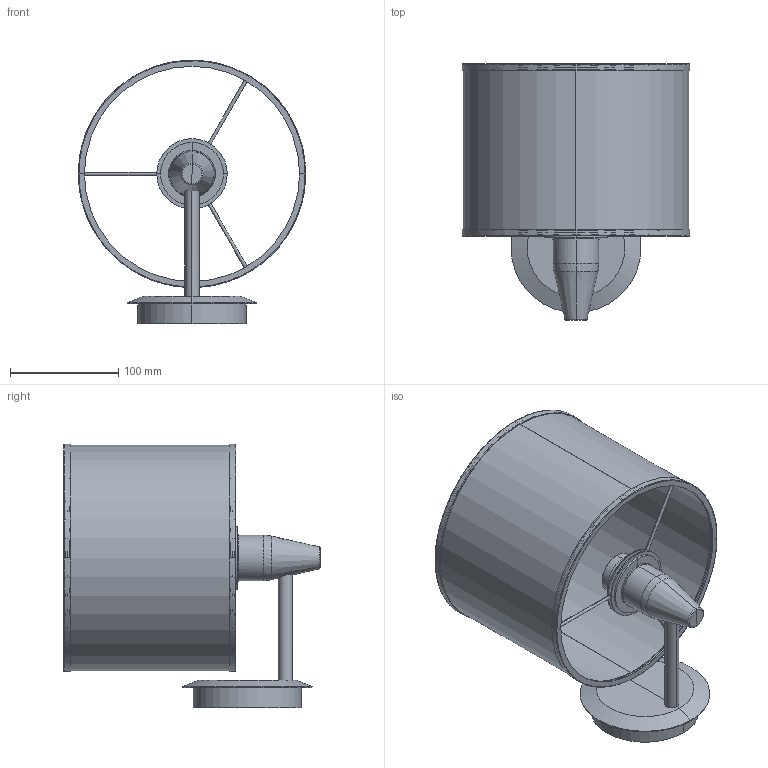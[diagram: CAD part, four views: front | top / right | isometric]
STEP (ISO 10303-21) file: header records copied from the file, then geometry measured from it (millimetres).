
FILE_DESCRIPTION(/* description */ (''),/* implementation_level */ '2;1');
FILE_NAME(/* name */ 'C:\Users\Franco Sartori E\Documents\FARO\DUPLICADO\Modelos\01_Digitalizados\2021\0_MAMBO_SAMBA_CONGA_APLIQUE\03_Publicación\64307-47.stp',/* time_stamp */ '2021-02-04T09:25:45+01:00',/* author */ ('Franco Sartori E'),/* organization */ (''),/* preprocessor_version */ 'ST-DEVELOPER v18.1',/* originating_system */ 'AutoCAD Mechanical',/* authorisation */ '');
FILE_SCHEMA (('AUTOMOTIVE_DESIGN { 1 0 10303 214 3 1 1 }'));
Length unit declared in the file: millimetre
Products named in the file (5): Product; 64306_64307_rfa - structure-560838-_3D_; MAMBO - 2P0710 Rattan shade wall lamp-566702-_3D_; SAMBA - 2P0615 Beige ribbon textile shade-566703-_3D_; CONGA - 2P0111 White textile shade-568162-_3D_
Assembly tree (4 placements, depth 2):
  Product
    64306_64307_rfa - structure-560838-_3D_
    MAMBO - 2P0710 Rattan shade wall lamp-566702-_3D_
    SAMBA - 2P0615 Beige ribbon textile shade-566703-_3D_
    CONGA - 2P0111 White textile shade-568162-_3D_
Bounding box: 210 x 236.74 x 243.46 mm (x, y, z)
Volume: 156027.7 mm3; surface area: 340389.4 mm2
Topology: 14 solids, 15 shells, 174 faces, 372 edges, 208 vertices
Faces by surface type: plane 80, cylinder 68, torus 14, cone 10, bspline 2
Entity records: 5931 total; most frequent: CARTESIAN_POINT 2026, DIRECTION 854, ORIENTED_EDGE 744, EDGE_CURVE 372, AXIS2_PLACEMENT_3D 339, VERTEX_POINT 208, EDGE_LOOP 178, LINE 176
